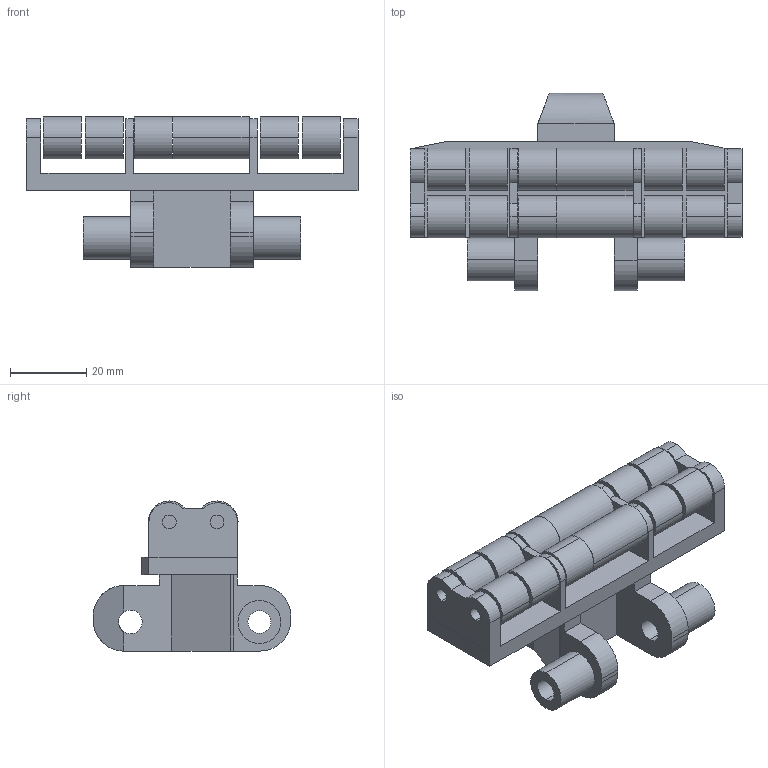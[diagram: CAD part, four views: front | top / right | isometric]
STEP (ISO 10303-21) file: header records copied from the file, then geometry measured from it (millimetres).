
FILE_DESCRIPTION (( 'STEP AP214' ), '1' );
FILE_NAME ('FMRT 5.step', '2017-04-04T13:35:12', ( '' ), ( '' ), 'SwSTEP 2.0', 'SolidWorks 2015', '' );
FILE_SCHEMA (( 'AUTOMOTIVE_DESIGN' ));
Length unit declared in the file: millimetre
Products named in the file (1): FMRT 5
Bounding box: 86.9 x 51.7 x 39.3 mm (x, y, z)
Volume: 42393.8 mm3; surface area: 22599 mm2
Topology: 16 solids, 16 shells, 159 faces, 382 edges, 253 vertices
Faces by surface type: cylinder 86, plane 73
Entity records: 5409 total; most frequent: DIRECTION 865, CARTESIAN_POINT 813, ORIENTED_EDGE 764, EDGE_CURVE 382, AXIS2_PLACEMENT_3D 329, VERTEX_POINT 253, LINE 207, VECTOR 207
